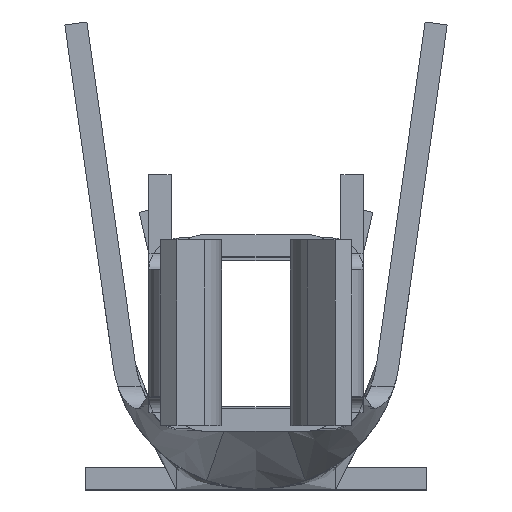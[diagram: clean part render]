
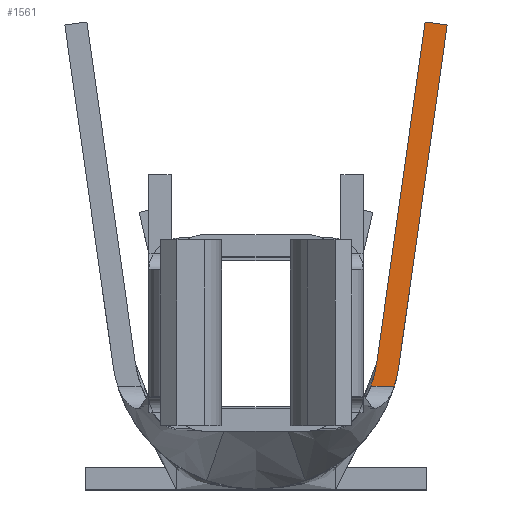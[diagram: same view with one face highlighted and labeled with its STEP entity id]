
A CAD part, top view. The second image highlights one B-rep face of the part: STEP entity #1561.
In plain terms, the highlighted planar face has unit normal (0, 0, 1).
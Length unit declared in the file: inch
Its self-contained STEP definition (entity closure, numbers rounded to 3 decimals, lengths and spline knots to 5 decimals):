
#66 = EDGE_LOOP ( 'NONE', ( #915, #916, #917, #918, #919, #920 ) ) ;
#478 = VERTEX_POINT ( 'NONE', #2731 ) ;
#479 = VERTEX_POINT ( 'NONE', #2732 ) ;
#480 = VERTEX_POINT ( 'NONE', #2733 ) ;
#481 = VERTEX_POINT ( 'NONE', #2734 ) ;
#484 = VERTEX_POINT ( 'NONE', #2737 ) ;
#485 = VERTEX_POINT ( 'NONE', #2738 ) ;
#785 = EDGE_CURVE ( 'NONE', #479, #478, #2209, .T. ) ;
#792 = EDGE_CURVE ( 'NONE', #485, #484, #2223, .T. ) ;
#799 = EDGE_CURVE ( 'NONE', #480, #485, #2235, .T. ) ;
#800 = EDGE_CURVE ( 'NONE', #481, #479, #2239, .T. ) ;
#801 = EDGE_CURVE ( 'NONE', #481, #480, #2233, .T. ) ;
#802 = EDGE_CURVE ( 'NONE', #484, #478, #2242, .T. ) ;
#915 = ORIENTED_EDGE ( 'NONE', *, *, #801, .F. ) ;
#916 = ORIENTED_EDGE ( 'NONE', *, *, #800, .T. ) ;
#917 = ORIENTED_EDGE ( 'NONE', *, *, #785, .T. ) ;
#918 = ORIENTED_EDGE ( 'NONE', *, *, #802, .F. ) ;
#919 = ORIENTED_EDGE ( 'NONE', *, *, #792, .F. ) ;
#920 = ORIENTED_EDGE ( 'NONE', *, *, #799, .F. ) ;
#1561 = ADVANCED_FACE ( 'NONE', ( #2378 ), #3400, .F. ) ;
#2209 = LINE ( 'NONE', #3195, #2210 ) ;
#2210 = VECTOR ( 'NONE', #3196, 39.37008 ) ;
#2223 = LINE ( 'NONE', #3209, #2224 ) ;
#2224 = VECTOR ( 'NONE', #3210, 39.37008 ) ;
#2232 = VECTOR ( 'NONE', #3226, 39.37008 ) ;
#2233 = LINE ( 'NONE', #3230, #2234 ) ;
#2234 = VECTOR ( 'NONE', #3231, 39.37008 ) ;
#2235 = LINE ( 'NONE', #3220, #2232 ) ;
#2239 = CIRCLE ( 'NONE', #3989, 0.04528 ) ;
#2242 = CIRCLE ( 'NONE', #3990, 0.05354 ) ;
#2378 = FACE_OUTER_BOUND ( 'NONE', #66, .T. ) ;
#2731 = CARTESIAN_POINT ( 'NONE',  ( 0.0513, -0.01887, -0.55118 ) ) ;
#2732 = CARTESIAN_POINT ( 'NONE',  ( 0.0426, -0.01887, -0.55118 ) ) ;
#2733 = CARTESIAN_POINT ( 'NONE',  ( 0.06268, 0.11614, -0.55118 ) ) ;
#2734 = CARTESIAN_POINT ( 'NONE',  ( 0.04483, -0.00989, -0.55118 ) ) ;
#2737 = CARTESIAN_POINT ( 'NONE',  ( 0.05301, -0.01105, -0.55118 ) ) ;
#2738 = CARTESIAN_POINT ( 'NONE',  ( 0.07087, 0.11498, -0.55118 ) ) ;
#3195 = CARTESIAN_POINT ( 'NONE',  ( 0.07087, -0.01887, -0.55118 ) ) ;
#3196 = DIRECTION ( 'NONE',  ( 1., 0., 0. ) ) ;
#3209 = CARTESIAN_POINT ( 'NONE',  ( 0.07087, 0.11498, -0.55118 ) ) ;
#3210 = DIRECTION ( 'NONE',  ( -0.14, -0.99, 0. ) ) ;
#3219 = CARTESIAN_POINT ( 'NONE',  ( 0., -0.00354, -0.55118 ) ) ;
#3220 = CARTESIAN_POINT ( 'NONE',  ( 0.06677, 0.11556, -0.55118 ) ) ;
#3225 = CARTESIAN_POINT ( 'NONE',  ( 0., -0.00354, -0.55118 ) ) ;
#3226 = DIRECTION ( 'NONE',  ( 0.99, -0.14, 0. ) ) ;
#3228 = DIRECTION ( 'NONE',  ( 0., 0., -1. ) ) ;
#3229 = DIRECTION ( 'NONE',  ( -1., 0., 0. ) ) ;
#3230 = CARTESIAN_POINT ( 'NONE',  ( 0.05375, 0.05312, -0.55118 ) ) ;
#3231 = DIRECTION ( 'NONE',  ( 0.14, 0.99, 0. ) ) ;
#3232 = DIRECTION ( 'NONE',  ( 0., 0., -1. ) ) ;
#3233 = DIRECTION ( 'NONE',  ( -1., 0., 0. ) ) ;
#3400 = PLANE ( 'NONE',  #4008 ) ;
#3403 = CARTESIAN_POINT ( 'NONE',  ( 0.07087, 0.11614, -0.55118 ) ) ;
#3409 = DIRECTION ( 'NONE',  ( 0., 0., -1. ) ) ;
#3410 = DIRECTION ( 'NONE',  ( -1., 0., 0. ) ) ;
#3989 = AXIS2_PLACEMENT_3D ( 'NONE', #3225, #3228, #3229 ) ;
#3990 = AXIS2_PLACEMENT_3D ( 'NONE', #3219, #3232, #3233 ) ;
#4008 = AXIS2_PLACEMENT_3D ( 'NONE', #3403, #3409, #3410 ) ;
